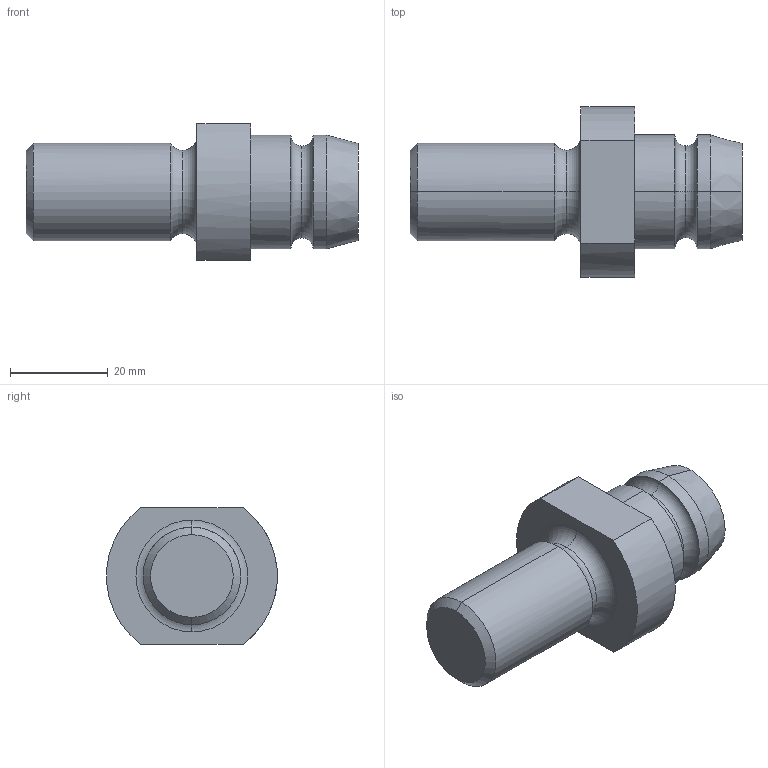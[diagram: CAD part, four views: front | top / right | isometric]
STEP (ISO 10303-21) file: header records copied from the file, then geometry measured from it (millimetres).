
FILE_DESCRIPTION(('CATIA V5 STEP Exchange'),'2;1');
FILE_NAME('C:\Users\Utente\Desktop\IO LAVORO\3D X SITO CF\X SITO\PLASTICA\AGS\AGS3411M20.stp','2021-02-21T19:31:42+00:00',('none'),('none'),'CATIA Version 5 Release 20 GA (IN-10)','CATIA V5 STEP AP203','none');
FILE_SCHEMA(('CONFIG_CONTROL_DESIGN'));
Length unit declared in the file: millimetre
Products named in the file (1): AGS3411M20
Bounding box: 68 x 34.93 x 28 mm (x, y, z)
Volume: 28584.6 mm3; surface area: 6649.8 mm2
Topology: 1 solids, 1 shells, 26 faces, 70 edges, 48 vertices
Faces by surface type: cylinder 8, torus 8, plane 6, cone 4
Entity records: 920 total; most frequent: CARTESIAN_POINT 235, ORIENTED_EDGE 140, DIRECTION 113, AXIS2_PLACEMENT_3D 70, EDGE_CURVE 70, VERTEX_POINT 48, CIRCLE 43, EDGE_LOOP 28
